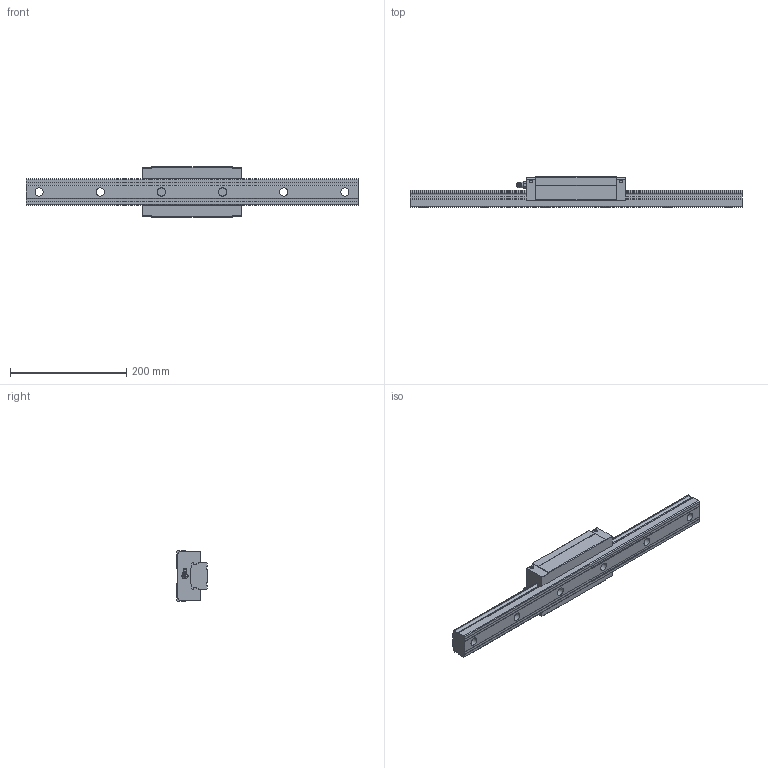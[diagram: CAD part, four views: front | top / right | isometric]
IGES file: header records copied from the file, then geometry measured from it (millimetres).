
Start section: Data from Parasolid IGES Translator 26.0.171, Copyright(c) 2006 Siemens PLM Software. All Rights Reserved.
Global section: file name: SVS45LR1SS-570L_G22-5_0_B-PT18_199-5_0_0_0_1.igs; native system: By Siemens PLM Incorporated; preprocessor: XPlus GENERIC/IGES 26.0.171; author: Noname; organization: Noname; date: 20240516.115723; units: millimetre
Bounding box: 570 x 52 x 86 mm (x, y, z)
Surface area: 155082.7 mm2 (no closed solid volume)
Topology: 0 solids, 0 shells, 194 faces, 1067 edges, 1025 vertices
Faces by surface type: extrusion 99, revolution 95
